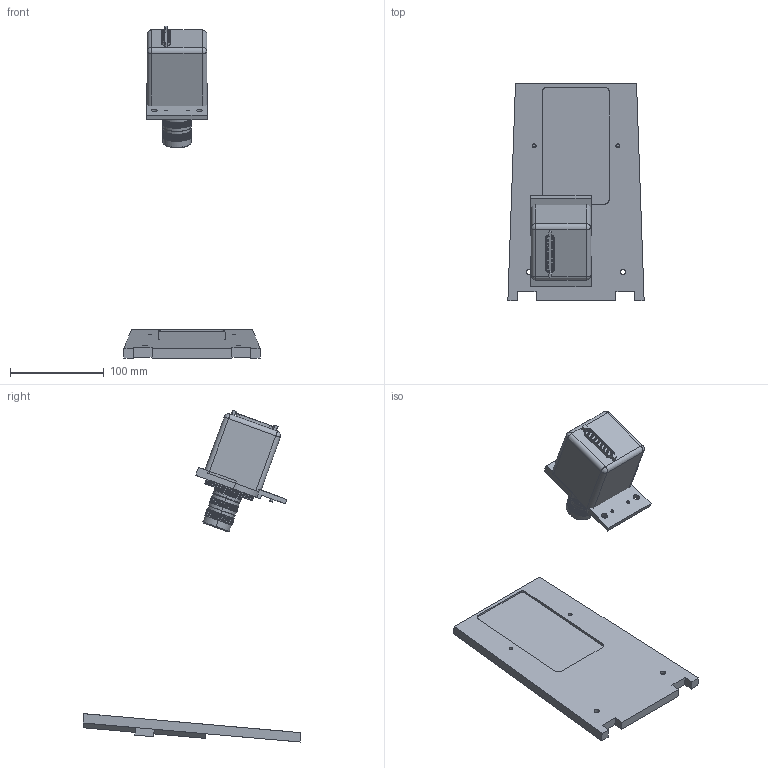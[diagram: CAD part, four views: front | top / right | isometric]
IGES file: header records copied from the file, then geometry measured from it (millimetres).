
Global section: file name: fgdsfgdsa.igs; native system: OneSpace Designer 3D IGES; preprocessor: 11.60D  09-Mar-2003; date: 20030620.095801; units: millimetre
Bounding box: 145 x 231.79 x 353.33 mm (x, y, z)
Surface area: 159549.7 mm2 (no closed solid volume)
Topology: 0 solids, 0 shells, 1658 faces, 10766 edges, 10766 vertices
Faces by surface type: bspline 1556, revolution 102
